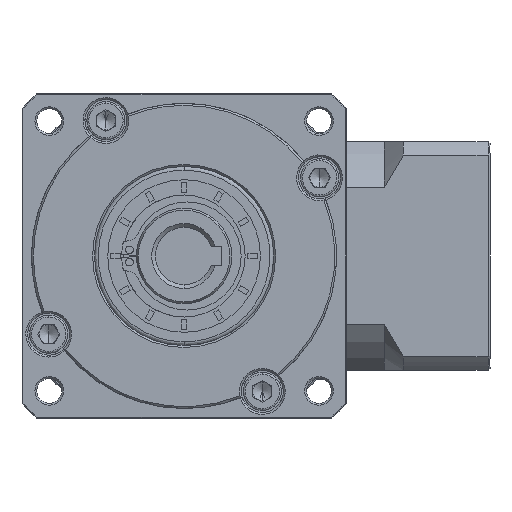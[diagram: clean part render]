
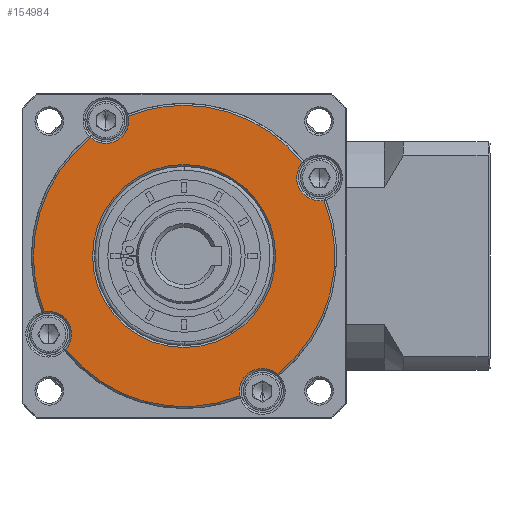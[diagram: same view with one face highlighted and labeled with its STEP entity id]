
A CAD part, left-side view. The second image highlights one B-rep face of the part: STEP entity #154984.
In plain terms, the highlighted planar face has unit normal (-1, 0, 0).
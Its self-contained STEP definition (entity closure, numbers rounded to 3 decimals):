
#2200 = CARTESIAN_POINT ( 'NONE',  ( -231.196, 49.8, 7.865 ) ) ;
#2918 = CARTESIAN_POINT ( 'NONE',  ( -231.196, 49.8, 7.865 ) ) ;
#6688 = ORIENTED_EDGE ( 'NONE', *, *, #189674, .T. ) ;
#6694 = DIRECTION ( 'NONE',  ( 1., 0., 0. ) ) ;
#6978 = EDGE_LOOP ( 'NONE', ( #152020, #6688 ) ) ;
#7353 = VERTEX_POINT ( 'NONE', #99260 ) ;
#10098 = AXIS2_PLACEMENT_3D ( 'NONE', #2918, #105941, #17693 ) ;
#11041 = CIRCLE ( 'NONE', #113570, 6. ) ;
#11292 = CIRCLE ( 'NONE', #185814, 6. ) ;
#12926 = CARTESIAN_POINT ( 'NONE',  ( -231.196, 49.8, 7.865 ) ) ;
#13713 = VERTEX_POINT ( 'NONE', #110771 ) ;
#16971 = DIRECTION ( 'NONE',  ( 0., 1., 0. ) ) ;
#17693 = DIRECTION ( 'NONE',  ( 0., 0., 1. ) ) ;
#18256 = EDGE_CURVE ( 'NONE', #13713, #142834, #51389, .T. ) ;
#18441 = CARTESIAN_POINT ( 'NONE',  ( -231.196, 70.3, 43.372 ) ) ;
#20893 = CARTESIAN_POINT ( 'NONE',  ( -231.196, 64.419, 44.56 ) ) ;
#21444 = CARTESIAN_POINT ( 'NONE',  ( -231.196, 25.33, -23.143 ) ) ;
#23856 = ORIENTED_EDGE ( 'NONE', *, *, #77716, .T. ) ;
#23909 = VERTEX_POINT ( 'NONE', #88153 ) ;
#27698 = DIRECTION ( 'NONE',  ( 0., 0., 1. ) ) ;
#29032 = VERTEX_POINT ( 'NONE', #139658 ) ;
#29102 = EDGE_CURVE ( 'NONE', #59326, #142834, #175977, .T. ) ;
#32461 = CARTESIAN_POINT ( 'NONE',  ( -231.196, 14.293, 28.365 ) ) ;
#33220 = DIRECTION ( 'NONE',  ( 0., 0., -1. ) ) ;
#33518 = ORIENTED_EDGE ( 'NONE', *, *, #83597, .F. ) ;
#36672 = DIRECTION ( 'NONE',  ( 1., 0., 0. ) ) ;
#37233 = CARTESIAN_POINT ( 'NONE',  ( -231.196, 14.293, 28.365 ) ) ;
#37557 = AXIS2_PLACEMENT_3D ( 'NONE', #32461, #135525, #47245 ) ;
#42039 = ORIENTED_EDGE ( 'NONE', *, *, #158320, .T. ) ;
#44212 = PLANE ( 'NONE',  #47918 ) ;
#44616 = FACE_BOUND ( 'NONE', #6978, .T. ) ;
#44837 = CARTESIAN_POINT ( 'NONE',  ( -231.196, 49.8, 7.865 ) ) ;
#45099 = ORIENTED_EDGE ( 'NONE', *, *, #184002, .F. ) ;
#45231 = CIRCLE ( 'NONE', #186450, 39.5 ) ;
#47245 = DIRECTION ( 'NONE',  ( 0., 0., -1. ) ) ;
#47918 = AXIS2_PLACEMENT_3D ( 'NONE', #44837, #147877, #59695 ) ;
#48254 = DIRECTION ( 'NONE',  ( 1., 0., 0. ) ) ;
#51389 = CIRCLE ( 'NONE', #101255, 6. ) ;
#52048 = DIRECTION ( 'NONE',  ( 0., 0., -1. ) ) ;
#53685 = CARTESIAN_POINT ( 'NONE',  ( -231.196, 49.8, 7.865 ) ) ;
#53882 = VERTEX_POINT ( 'NONE', #130539 ) ;
#59326 = VERTEX_POINT ( 'NONE', #121604 ) ;
#59695 = DIRECTION ( 'NONE',  ( 0., 0., -1. ) ) ;
#61728 = CIRCLE ( 'NONE', #63318, 6. ) ;
#62933 = CARTESIAN_POINT ( 'NONE',  ( -231.196, 85.307, -12.635 ) ) ;
#63318 = AXIS2_PLACEMENT_3D ( 'NONE', #85946, #188885, #100742 ) ;
#68564 = DIRECTION ( 'NONE',  ( 0., 0., 1. ) ) ;
#69001 = ORIENTED_EDGE ( 'NONE', *, *, #182821, .T. ) ;
#74131 = EDGE_CURVE ( 'NONE', #186389, #53882, #90497, .T. ) ;
#75053 = CARTESIAN_POINT ( 'NONE',  ( -231.196, 70.3, 43.372 ) ) ;
#75645 = AXIS2_PLACEMENT_3D ( 'NONE', #85955, #188892, #100751 ) ;
#77716 = EDGE_CURVE ( 'NONE', #23909, #98684, #61728, .T. ) ;
#77759 = DIRECTION ( 'NONE',  ( 0., 0., -1. ) ) ;
#82883 = CARTESIAN_POINT ( 'NONE',  ( -231.196, 25.8, 7.865 ) ) ;
#83248 = AXIS2_PLACEMENT_3D ( 'NONE', #12926, #115944, #27698 ) ;
#83597 = EDGE_CURVE ( 'NONE', #29032, #98684, #45231, .T. ) ;
#85659 = ORIENTED_EDGE ( 'NONE', *, *, #121553, .T. ) ;
#85946 = CARTESIAN_POINT ( 'NONE',  ( -231.196, 29.3, -27.642 ) ) ;
#85955 = CARTESIAN_POINT ( 'NONE',  ( -231.196, 49.8, 7.865 ) ) ;
#88153 = CARTESIAN_POINT ( 'NONE',  ( -231.196, 35.181, -28.83 ) ) ;
#88572 = ORIENTED_EDGE ( 'NONE', *, *, #115710, .F. ) ;
#89779 = DIRECTION ( 'NONE',  ( 0., 0., -1. ) ) ;
#90497 = CIRCLE ( 'NONE', #184109, 39.5 ) ;
#94905 = CARTESIAN_POINT ( 'NONE',  ( -231.196, 49.8, 7.865 ) ) ;
#97148 = CARTESIAN_POINT ( 'NONE',  ( -231.196, 14.293, 22.365 ) ) ;
#97517 = EDGE_CURVE ( 'NONE', #141306, #186389, #184359, .T. ) ;
#98684 = VERTEX_POINT ( 'NONE', #21444 ) ;
#99260 = CARTESIAN_POINT ( 'NONE',  ( -231.196, 86.495, -6.754 ) ) ;
#100742 = DIRECTION ( 'NONE',  ( 0., 0., -1. ) ) ;
#100751 = DIRECTION ( 'NONE',  ( 0., -1., 0. ) ) ;
#101255 = AXIS2_PLACEMENT_3D ( 'NONE', #75053, #177966, #89779 ) ;
#105240 = DIRECTION ( 'NONE',  ( 1., 0., 0. ) ) ;
#105941 = DIRECTION ( 'NONE',  ( 1., 0., 0. ) ) ;
#109731 = DIRECTION ( 'NONE',  ( 0., 0., 1. ) ) ;
#110593 = CARTESIAN_POINT ( 'NONE',  ( -231.196, 80.808, -16.605 ) ) ;
#110771 = CARTESIAN_POINT ( 'NONE',  ( -231.196, 70.3, 37.372 ) ) ;
#112888 = VERTEX_POINT ( 'NONE', #97148 ) ;
#113570 = AXIS2_PLACEMENT_3D ( 'NONE', #62933, #165874, #77759 ) ;
#113652 = CIRCLE ( 'NONE', #83248, 39.5 ) ;
#114051 = VERTEX_POINT ( 'NONE', #185085 ) ;
#115381 = AXIS2_PLACEMENT_3D ( 'NONE', #124912, #36672, #139740 ) ;
#115710 = EDGE_CURVE ( 'NONE', #7353, #59326, #159953, .T. ) ;
#115944 = DIRECTION ( 'NONE',  ( 1., 0., 0. ) ) ;
#119370 = ORIENTED_EDGE ( 'NONE', *, *, #185374, .T. ) ;
#121478 = DIRECTION ( 'NONE',  ( 1., 0., 0. ) ) ;
#121553 = EDGE_CURVE ( 'NONE', #7353, #160871, #11041, .T. ) ;
#121604 = CARTESIAN_POINT ( 'NONE',  ( -231.196, 89.3, 7.865 ) ) ;
#123009 = FACE_OUTER_BOUND ( 'NONE', #187593, .T. ) ;
#123283 = ORIENTED_EDGE ( 'NONE', *, *, #29102, .F. ) ;
#124912 = CARTESIAN_POINT ( 'NONE',  ( -231.196, 49.8, 7.865 ) ) ;
#125790 = AXIS2_PLACEMENT_3D ( 'NONE', #136536, #48254, #151316 ) ;
#126225 = CIRCLE ( 'NONE', #115381, 24. ) ;
#128843 = CARTESIAN_POINT ( 'NONE',  ( -231.196, 49.8, 47.365 ) ) ;
#128958 = CIRCLE ( 'NONE', #37557, 6. ) ;
#130539 = CARTESIAN_POINT ( 'NONE',  ( -231.196, 18.792, 32.334 ) ) ;
#135525 = DIRECTION ( 'NONE',  ( 1., 0., 0. ) ) ;
#136536 = CARTESIAN_POINT ( 'NONE',  ( -231.196, 49.8, 7.865 ) ) ;
#138691 = VERTEX_POINT ( 'NONE', #82883 ) ;
#138881 = ORIENTED_EDGE ( 'NONE', *, *, #74131, .F. ) ;
#139658 = CARTESIAN_POINT ( 'NONE',  ( -231.196, 13.105, 22.484 ) ) ;
#139740 = DIRECTION ( 'NONE',  ( 0., -1., 0. ) ) ;
#140272 = DIRECTION ( 'NONE',  ( 1., 0., 0. ) ) ;
#141306 = VERTEX_POINT ( 'NONE', #20893 ) ;
#142834 = VERTEX_POINT ( 'NONE', #170256 ) ;
#145735 = AXIS2_PLACEMENT_3D ( 'NONE', #37233, #140272, #52048 ) ;
#147877 = DIRECTION ( 'NONE',  ( -1., 0., 0. ) ) ;
#151316 = DIRECTION ( 'NONE',  ( 0., 1., 0. ) ) ;
#152020 = ORIENTED_EDGE ( 'NONE', *, *, #159129, .T. ) ;
#154984 = ADVANCED_FACE ( 'NONE', ( #123009, #44616 ), #44212, .T. ) ;
#156720 = ORIENTED_EDGE ( 'NONE', *, *, #97517, .F. ) ;
#156759 = DIRECTION ( 'NONE',  ( 1., 0., 0. ) ) ;
#157723 = CIRCLE ( 'NONE', #75645, 24. ) ;
#158320 = EDGE_CURVE ( 'NONE', #112888, #53882, #128958, .T. ) ;
#159129 = EDGE_CURVE ( 'NONE', #138691, #114051, #126225, .T. ) ;
#159953 = CIRCLE ( 'NONE', #125790, 39.5 ) ;
#160871 = VERTEX_POINT ( 'NONE', #110593 ) ;
#164035 = CIRCLE ( 'NONE', #145735, 6. ) ;
#164458 = ORIENTED_EDGE ( 'NONE', *, *, #18256, .T. ) ;
#165874 = DIRECTION ( 'NONE',  ( 1., 0., 0. ) ) ;
#170256 = CARTESIAN_POINT ( 'NONE',  ( -231.196, 74.27, 38.873 ) ) ;
#175977 = CIRCLE ( 'NONE', #188325, 39.5 ) ;
#177966 = DIRECTION ( 'NONE',  ( 1., 0., 0. ) ) ;
#182821 = EDGE_CURVE ( 'NONE', #29032, #112888, #164035, .T. ) ;
#184002 = EDGE_CURVE ( 'NONE', #23909, #160871, #113652, .T. ) ;
#184109 = AXIS2_PLACEMENT_3D ( 'NONE', #94905, #6694, #109731 ) ;
#184359 = CIRCLE ( 'NONE', #10098, 39.5 ) ;
#185085 = CARTESIAN_POINT ( 'NONE',  ( -231.196, 73.8, 7.865 ) ) ;
#185374 = EDGE_CURVE ( 'NONE', #141306, #13713, #11292, .T. ) ;
#185814 = AXIS2_PLACEMENT_3D ( 'NONE', #18441, #121478, #33220 ) ;
#186389 = VERTEX_POINT ( 'NONE', #128843 ) ;
#186450 = AXIS2_PLACEMENT_3D ( 'NONE', #53685, #156759, #68564 ) ;
#187593 = EDGE_LOOP ( 'NONE', ( #156720, #119370, #164458, #123283, #88572, #85659, #45099, #23856, #33518, #69001, #42039, #138881 ) ) ;
#188325 = AXIS2_PLACEMENT_3D ( 'NONE', #2200, #105240, #16971 ) ;
#188885 = DIRECTION ( 'NONE',  ( 1., 0., 0. ) ) ;
#188892 = DIRECTION ( 'NONE',  ( 1., 0., 0. ) ) ;
#189674 = EDGE_CURVE ( 'NONE', #114051, #138691, #157723, .T. ) ;
